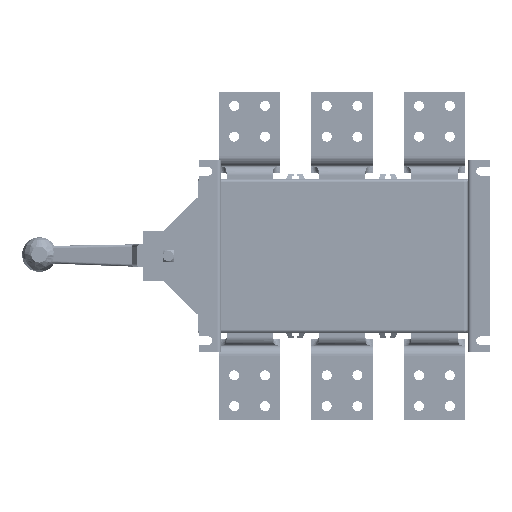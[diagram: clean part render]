
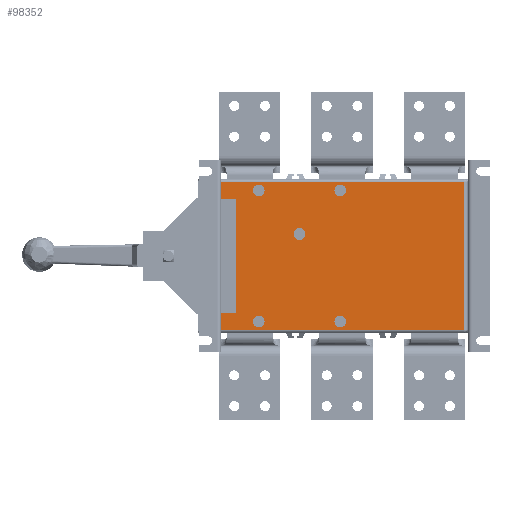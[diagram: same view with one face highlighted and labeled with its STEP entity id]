
A CAD part, front view. The second image highlights one B-rep face of the part: STEP entity #98352.
In plain terms, the highlighted planar face has unit normal (0, -1, 0) as drawn and (0, 1, 0) by its records, which use the part's own axes.
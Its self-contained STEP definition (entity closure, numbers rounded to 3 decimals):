
#96218=DIRECTION('',(0.,0.,1.));
#96219=VECTOR('',#96218,21.2);
#96220=CARTESIAN_POINT('',(-107.7,55.5,74.65));
#96221=LINE('',#96220,#96219);
#96807=DIRECTION('',(1.,0.,0.));
#96808=VECTOR('',#96807,22.2);
#96809=CARTESIAN_POINT('',(-107.7,55.5,74.65));
#96810=LINE('',#96809,#96808);
#96814=DIRECTION('',(0.,0.,-1.));
#96815=VECTOR('',#96814,149.3);
#96816=CARTESIAN_POINT('',(-85.5,55.5,74.65));
#96817=LINE('',#96816,#96815);
#96821=DIRECTION('',(-1.,0.,0.));
#96822=VECTOR('',#96821,22.2);
#96823=CARTESIAN_POINT('',(-85.5,55.5,-74.65));
#96824=LINE('',#96823,#96822);
#96828=CARTESIAN_POINT('',(-56.,55.5,85.2));
#96829=DIRECTION('',(0.,1.,0.));
#96830=DIRECTION('',(0.,0.,1.));
#96831=AXIS2_PLACEMENT_3D('',#96828,#96829,#96830);
#96836=CARTESIAN_POINT('',(-56.,55.5,85.2));
#96837=DIRECTION('',(0.,1.,0.));
#96838=DIRECTION('',(0.,0.,-1.));
#96839=AXIS2_PLACEMENT_3D('',#96836,#96837,#96838);
#96844=CARTESIAN_POINT('',(50.,55.5,-85.2));
#96845=DIRECTION('',(0.,1.,0.));
#96846=DIRECTION('',(0.,0.,1.));
#96847=AXIS2_PLACEMENT_3D('',#96844,#96845,#96846);
#96852=CARTESIAN_POINT('',(50.,55.5,-85.2));
#96853=DIRECTION('',(0.,1.,0.));
#96854=DIRECTION('',(0.,0.,-1.));
#96855=AXIS2_PLACEMENT_3D('',#96852,#96853,#96854);
#96860=CARTESIAN_POINT('',(50.,55.5,85.2));
#96861=DIRECTION('',(0.,1.,0.));
#96862=DIRECTION('',(0.,0.,1.));
#96863=AXIS2_PLACEMENT_3D('',#96860,#96861,#96862);
#96868=CARTESIAN_POINT('',(50.,55.5,85.2));
#96869=DIRECTION('',(0.,1.,0.));
#96870=DIRECTION('',(0.,0.,-1.));
#96871=AXIS2_PLACEMENT_3D('',#96868,#96869,#96870);
#96876=CARTESIAN_POINT('',(-3.,55.5,-28.55));
#96877=DIRECTION('',(0.,1.,0.));
#96878=DIRECTION('',(0.,0.,1.));
#96879=AXIS2_PLACEMENT_3D('',#96876,#96877,#96878);
#96884=CARTESIAN_POINT('',(-3.,55.5,-28.55));
#96885=DIRECTION('',(0.,1.,0.));
#96886=DIRECTION('',(0.,0.,-1.));
#96887=AXIS2_PLACEMENT_3D('',#96884,#96885,#96886);
#96892=CARTESIAN_POINT('',(-56.,55.5,-85.2));
#96893=DIRECTION('',(0.,1.,0.));
#96894=DIRECTION('',(0.,0.,1.));
#96895=AXIS2_PLACEMENT_3D('',#96892,#96893,#96894);
#96900=CARTESIAN_POINT('',(-56.,55.5,-85.2));
#96901=DIRECTION('',(0.,1.,0.));
#96902=DIRECTION('',(0.,0.,-1.));
#96903=AXIS2_PLACEMENT_3D('',#96900,#96901,#96902);
#96915=DIRECTION('',(1.,0.,0.));
#96916=VECTOR('',#96915,318.2);
#96917=CARTESIAN_POINT('',(-107.7,55.5,95.85));
#96918=LINE('',#96917,#96916);
#97049=DIRECTION('',(0.,0.,1.));
#97050=VECTOR('',#97049,21.2);
#97051=CARTESIAN_POINT('',(-107.7,55.5,-95.85));
#97052=LINE('',#97051,#97050);
#97326=DIRECTION('',(0.,0.,-1.));
#97327=VECTOR('',#97326,191.7);
#97328=CARTESIAN_POINT('',(210.5,55.5,95.85));
#97329=LINE('',#97328,#97327);
#97340=DIRECTION('',(-1.,0.,0.));
#97341=VECTOR('',#97340,318.2);
#97342=CARTESIAN_POINT('',(210.5,55.5,-95.85));
#97343=LINE('',#97342,#97341);
#97541=CARTESIAN_POINT('',(210.5,55.5,95.85));
#97542=VERTEX_POINT('',#97541);
#97549=CARTESIAN_POINT('',(-107.7,55.5,74.65));
#97550=VERTEX_POINT('',#97549);
#97551=CARTESIAN_POINT('',(-107.7,55.5,95.85));
#97552=VERTEX_POINT('',#97551);
#97651=CARTESIAN_POINT('',(-56.,55.5,-92.8));
#97652=VERTEX_POINT('',#97651);
#97653=CARTESIAN_POINT('',(-56.,55.5,-77.6));
#97654=VERTEX_POINT('',#97653);
#97655=CARTESIAN_POINT('',(-85.5,55.5,74.65));
#97656=VERTEX_POINT('',#97655);
#97657=CARTESIAN_POINT('',(-85.5,55.5,-74.65));
#97658=VERTEX_POINT('',#97657);
#97659=CARTESIAN_POINT('',(-107.7,55.5,-74.65));
#97660=VERTEX_POINT('',#97659);
#97661=CARTESIAN_POINT('',(-107.7,55.5,-95.85));
#97662=VERTEX_POINT('',#97661);
#97663=CARTESIAN_POINT('',(210.5,55.5,-95.85));
#97664=VERTEX_POINT('',#97663);
#97665=CARTESIAN_POINT('',(-56.,55.5,92.8));
#97666=CARTESIAN_POINT('',(-56.,55.5,77.6));
#97667=VERTEX_POINT('',#97665);
#97668=VERTEX_POINT('',#97666);
#97669=CARTESIAN_POINT('',(50.,55.5,-77.6));
#97670=CARTESIAN_POINT('',(50.,55.5,-92.8));
#97671=VERTEX_POINT('',#97669);
#97672=VERTEX_POINT('',#97670);
#97673=CARTESIAN_POINT('',(50.,55.5,92.8));
#97674=CARTESIAN_POINT('',(50.,55.5,77.6));
#97675=VERTEX_POINT('',#97673);
#97676=VERTEX_POINT('',#97674);
#97677=CARTESIAN_POINT('',(-3.,55.5,-20.86));
#97678=CARTESIAN_POINT('',(-3.,55.5,-36.24));
#97679=VERTEX_POINT('',#97677);
#97680=VERTEX_POINT('',#97678);
#98302=CARTESIAN_POINT('',(0.,55.5,0.));
#98303=DIRECTION('',(0.,-1.,0.));
#98304=DIRECTION('',(0.,0.,-1.));
#98305=AXIS2_PLACEMENT_3D('',#98302,#98303,#98304);
#98306=PLANE('',#98305);
#98308=ORIENTED_EDGE('',*,*,#98307,.F.);
#98309=ORIENTED_EDGE('',*,*,#97863,.F.);
#98311=ORIENTED_EDGE('',*,*,#98310,.T.);
#98313=ORIENTED_EDGE('',*,*,#98312,.T.);
#98315=ORIENTED_EDGE('',*,*,#98314,.T.);
#98317=ORIENTED_EDGE('',*,*,#98316,.F.);
#98319=ORIENTED_EDGE('',*,*,#98318,.F.);
#98321=ORIENTED_EDGE('',*,*,#98320,.F.);
#98322=EDGE_LOOP('',(#98308,#98309,#98311,#98313,#98315,#98317,#98319,#98321));
#98323=FACE_OUTER_BOUND('',#98322,.F.);
#98325=ORIENTED_EDGE('',*,*,#98324,.T.);
#98327=ORIENTED_EDGE('',*,*,#98326,.T.);
#98328=EDGE_LOOP('',(#98325,#98327));
#98329=FACE_BOUND('',#98328,.F.);
#98331=ORIENTED_EDGE('',*,*,#98330,.T.);
#98333=ORIENTED_EDGE('',*,*,#98332,.T.);
#98334=EDGE_LOOP('',(#98331,#98333));
#98335=FACE_BOUND('',#98334,.F.);
#98337=ORIENTED_EDGE('',*,*,#98336,.T.);
#98339=ORIENTED_EDGE('',*,*,#98338,.T.);
#98340=EDGE_LOOP('',(#98337,#98339));
#98341=FACE_BOUND('',#98340,.F.);
#98343=ORIENTED_EDGE('',*,*,#98342,.T.);
#98345=ORIENTED_EDGE('',*,*,#98344,.T.);
#98346=EDGE_LOOP('',(#98343,#98345));
#98347=FACE_BOUND('',#98346,.F.);
#98348=ORIENTED_EDGE('',*,*,#98281,.T.);
#98349=ORIENTED_EDGE('',*,*,#98296,.T.);
#98350=EDGE_LOOP('',(#98348,#98349));
#98351=FACE_BOUND('',#98350,.F.);
#96832=CIRCLE('',#96831,7.6);
#96840=CIRCLE('',#96839,7.6);
#96848=CIRCLE('',#96847,7.6);
#96856=CIRCLE('',#96855,7.6);
#96864=CIRCLE('',#96863,7.6);
#96872=CIRCLE('',#96871,7.6);
#96880=CIRCLE('',#96879,7.69);
#96888=CIRCLE('',#96887,7.69);
#96896=CIRCLE('',#96895,7.6);
#96904=CIRCLE('',#96903,7.6);
#97863=EDGE_CURVE('',#97550,#97552,#96221,.T.);
#98281=EDGE_CURVE('',#97654,#97652,#96896,.T.);
#98296=EDGE_CURVE('',#97652,#97654,#96904,.T.);
#98307=EDGE_CURVE('',#97552,#97542,#96918,.T.);
#98310=EDGE_CURVE('',#97550,#97656,#96810,.T.);
#98312=EDGE_CURVE('',#97656,#97658,#96817,.T.);
#98314=EDGE_CURVE('',#97658,#97660,#96824,.T.);
#98316=EDGE_CURVE('',#97662,#97660,#97052,.T.);
#98318=EDGE_CURVE('',#97664,#97662,#97343,.T.);
#98320=EDGE_CURVE('',#97542,#97664,#97329,.T.);
#98324=EDGE_CURVE('',#97667,#97668,#96832,.T.);
#98326=EDGE_CURVE('',#97668,#97667,#96840,.T.);
#98330=EDGE_CURVE('',#97671,#97672,#96848,.T.);
#98332=EDGE_CURVE('',#97672,#97671,#96856,.T.);
#98336=EDGE_CURVE('',#97675,#97676,#96864,.T.);
#98338=EDGE_CURVE('',#97676,#97675,#96872,.T.);
#98342=EDGE_CURVE('',#97679,#97680,#96880,.T.);
#98344=EDGE_CURVE('',#97680,#97679,#96888,.T.);
#98352=ADVANCED_FACE('',(#98323,#98329,#98335,#98341,#98347,#98351),#98306,.F.);
